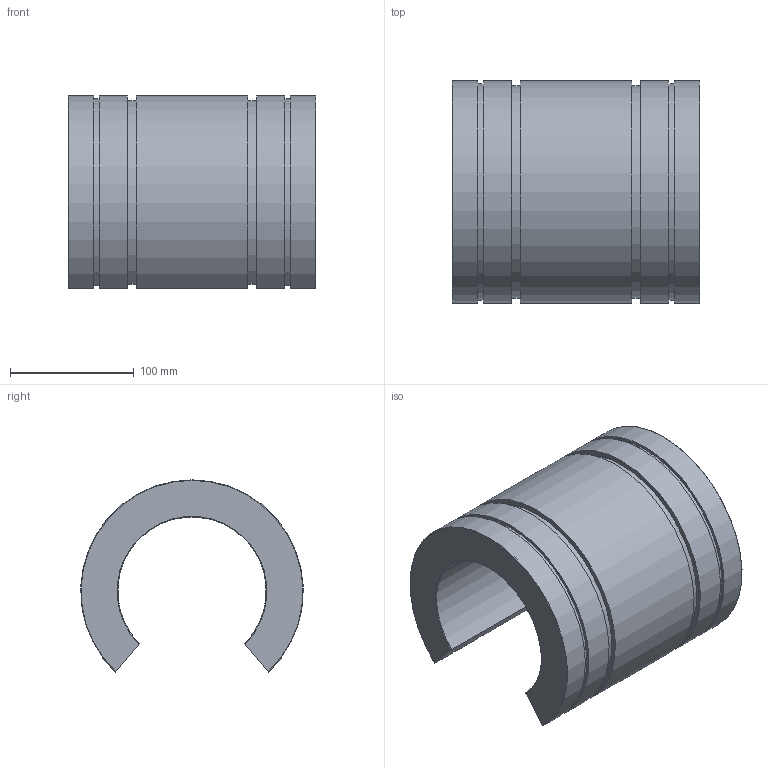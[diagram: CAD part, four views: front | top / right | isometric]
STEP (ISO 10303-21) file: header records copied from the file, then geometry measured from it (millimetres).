
FILE_DESCRIPTION(('STEP AP203'),'1');
FILE_NAME('//192.168.1.1/share/s-4 技術開発/s-4-4_CAD/s-4-4-3_見直し済み/PBC LINEAR修正済み/FJN/FJN_TOP/FJN120.step','2022-03-24T07:41:13',(' '),(' '),'Spatial InterOp 3D',' ',' ');
FILE_SCHEMA(('CONFIG_CONTROL_DESIGN'));
Length unit declared in the file: millimetre
Products named in the file (1): 1
Bounding box: 200 x 179.87 x 155.39 mm (x, y, z)
Volume: 2101514.4 mm3; surface area: 186047.5 mm2
Topology: 1 solids, 1 shells, 26 faces, 72 edges, 48 vertices
Faces by surface type: plane 12, cylinder 10, torus 4
Entity records: 908 total; most frequent: CARTESIAN_POINT 187, ORIENTED_EDGE 144, DIRECTION 142, EDGE_CURVE 72, AXIS2_PLACEMENT_3D 51, VERTEX_POINT 48, LINE 40, VECTOR 40
